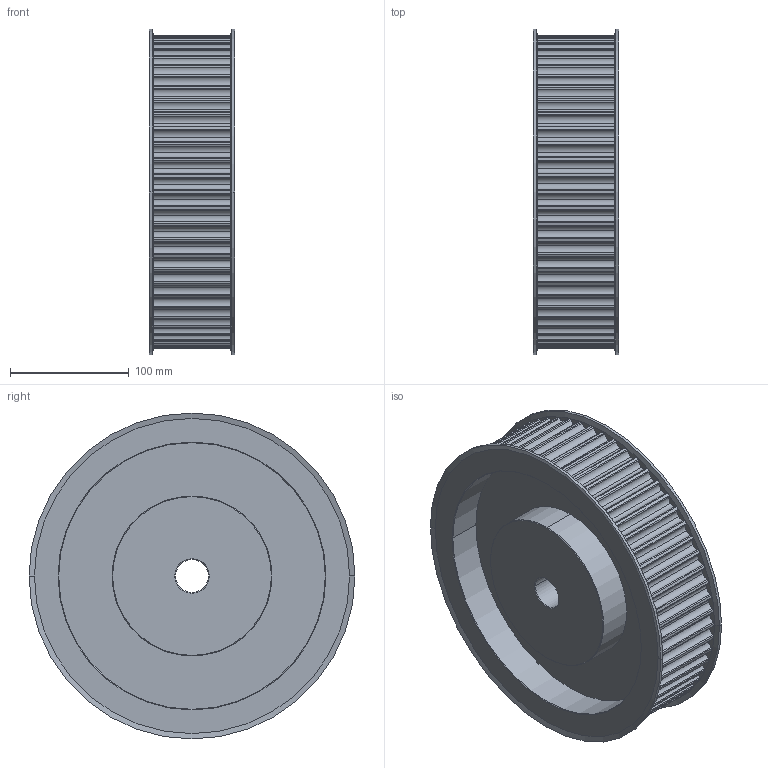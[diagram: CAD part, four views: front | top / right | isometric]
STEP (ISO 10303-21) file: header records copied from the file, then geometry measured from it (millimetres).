
FILE_DESCRIPTION(('STEP AP203'),'1');
FILE_NAME('60_-_14_m_55.stp','2021-05-13T10:30:28',('TraceParts'),('TraceParts S.A.'),'Spatial InterOp 3D',' ',' ');
FILE_SCHEMA(('CONFIG_CONTROL_DESIGN'));
Length unit declared in the file: millimetre
Products named in the file (1): 1
Bounding box: 72.41 x 275 x 275 mm (x, y, z)
Volume: 2259038.8 mm3; surface area: 276004 mm2
Topology: 1 solids, 1 shells, 342 faces, 988 edges, 654 vertices
Faces by surface type: cylinder 314, cone 20, plane 8
Entity records: 11682 total; most frequent: DIRECTION 2328, CARTESIAN_POINT 1985, ORIENTED_EDGE 1976, AXIS2_PLACEMENT_3D 997, EDGE_CURVE 988, VERTEX_POINT 654, CIRCLE 654, EDGE_LOOP 350
